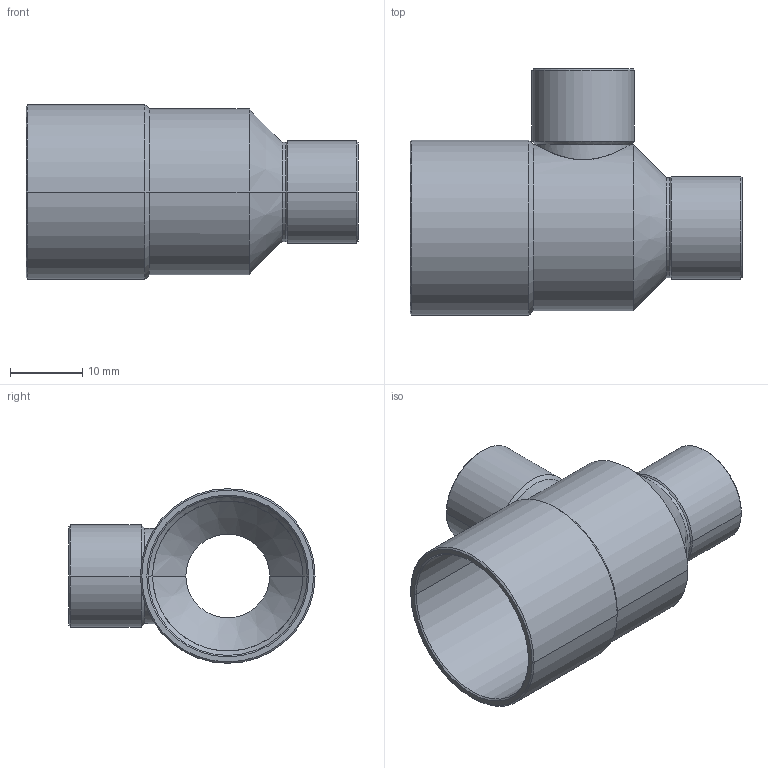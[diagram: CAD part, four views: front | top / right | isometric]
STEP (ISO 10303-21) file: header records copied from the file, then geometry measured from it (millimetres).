
FILE_DESCRIPTION((''),'2;1');
FILE_NAME('P:\Bouwmaten\z-maattekeningen 3D\5000\5130\5130221212.stp','2005-10-26T11:53:37',('Kris'),(''),'Autodesk Inventor 8','Autodesk Inventor 8','');
FILE_SCHEMA(('AUTOMOTIVE_DESIGN { 1 0 10303 214 1 1 1 1 }'));
Length unit declared in the file: millimetre
Products named in the file (1): 5130221212
Bounding box: 46 x 34.1 x 24.2 mm (x, y, z)
Volume: 3638.2 mm3; surface area: 6847.1 mm2
Topology: 1 solids, 1 shells, 59 faces, 133 edges, 75 vertices
Faces by surface type: cone 28, cylinder 26, plane 3, bspline 2
Entity records: 2245 total; most frequent: CARTESIAN_POINT 912, DIRECTION 283, ORIENTED_EDGE 266, EDGE_CURVE 133, AXIS2_PLACEMENT_3D 117, VERTEX_POINT 75, EDGE_LOOP 62, CIRCLE 59
